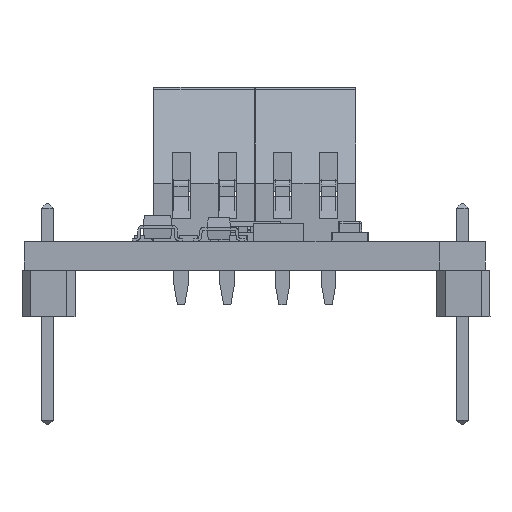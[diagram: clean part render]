
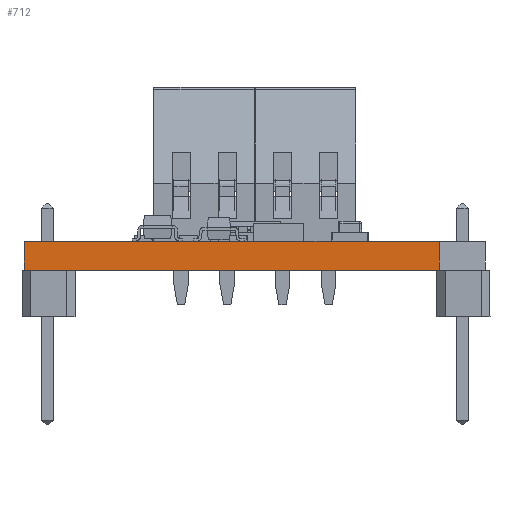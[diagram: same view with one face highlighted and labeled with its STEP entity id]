
A CAD part, front view. The second image highlights one B-rep face of the part: STEP entity #712.
In plain terms, the highlighted planar face has unit normal (0, -1, 0).
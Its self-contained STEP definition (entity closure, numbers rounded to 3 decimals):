
#687 = VERTEX_POINT('',#688);
#688 = CARTESIAN_POINT('',(21.59,-3.81,0.));
#694 = EDGE_CURVE('',#695,#687,#697,.T.);
#695 = VERTEX_POINT('',#696);
#696 = CARTESIAN_POINT('',(21.59,-3.81,-1.59));
#697 = LINE('',#698,#699);
#698 = CARTESIAN_POINT('',(21.59,-3.81,-1.59));
#699 = VECTOR('',#700,1.);
#700 = DIRECTION('',(0.,0.,1.));
#712 = ADVANCED_FACE('',(#713),#738,.T.);
#713 = FACE_BOUND('',#714,.T.);
#714 = EDGE_LOOP('',(#715,#716,#724,#732));
#715 = ORIENTED_EDGE('',*,*,#694,.T.);
#716 = ORIENTED_EDGE('',*,*,#717,.T.);
#717 = EDGE_CURVE('',#687,#718,#720,.T.);
#718 = VERTEX_POINT('',#719);
#719 = CARTESIAN_POINT('',(-1.27,-3.81,0.));
#720 = LINE('',#721,#722);
#721 = CARTESIAN_POINT('',(21.59,-3.81,0.));
#722 = VECTOR('',#723,1.);
#723 = DIRECTION('',(-1.,0.,0.));
#724 = ORIENTED_EDGE('',*,*,#725,.F.);
#725 = EDGE_CURVE('',#726,#718,#728,.T.);
#726 = VERTEX_POINT('',#727);
#727 = CARTESIAN_POINT('',(-1.27,-3.81,-1.59));
#728 = LINE('',#729,#730);
#729 = CARTESIAN_POINT('',(-1.27,-3.81,-1.59));
#730 = VECTOR('',#731,1.);
#731 = DIRECTION('',(0.,0.,1.));
#732 = ORIENTED_EDGE('',*,*,#733,.F.);
#733 = EDGE_CURVE('',#695,#726,#734,.T.);
#734 = LINE('',#735,#736);
#735 = CARTESIAN_POINT('',(21.59,-3.81,-1.59));
#736 = VECTOR('',#737,1.);
#737 = DIRECTION('',(-1.,0.,0.));
#738 = PLANE('',#739);
#739 = AXIS2_PLACEMENT_3D('',#740,#741,#742);
#740 = CARTESIAN_POINT('',(21.59,-3.81,-1.59));
#741 = DIRECTION('',(0.,-1.,0.));
#742 = DIRECTION('',(-1.,0.,0.));
